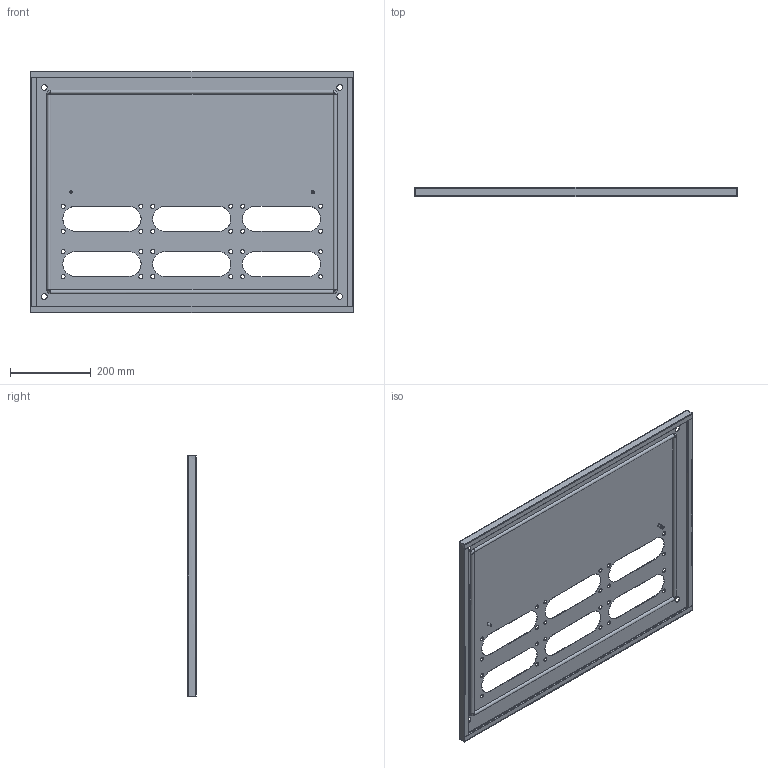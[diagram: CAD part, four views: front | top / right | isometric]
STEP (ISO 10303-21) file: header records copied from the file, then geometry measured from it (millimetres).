
FILE_DESCRIPTION (( 'STEP AP203' ), '1' );
FILE_NAME ('306426.STEP', '2021-06-17T12:38:48', ( '' ), ( '' ), 'SwSTEP 2.0', 'SolidWorks 2018', '' );
FILE_SCHEMA (( 'CONFIG_CONTROL_DESIGN' ));
Length unit declared in the file: millimetre
Products named in the file (6): 306426; PF 10x5 KTB FL21_0800x0600^306426(2)_306426; AC00C061_AC00C061^306426(2)_306426; I6o12-A5100231_straight^306426(2)_306426; RB.0371.00.01.0_-04^306426(2)_306426; 306426(2)^306426
Assembly tree (5 placements, depth 3):
  306426
    306426(2)^306426
      PF 10x5 KTB FL21_0800x0600^306426(2)_306426
      AC00C061_AC00C061^306426(2)_306426
      I6o12-A5100231_straight^306426(2)_306426
      RB.0371.00.01.0_-04^306426(2)_306426
Bounding box: 799 x 21.5 x 599 mm (x, y, z)
Volume: 835323.9 mm3; surface area: 1069360.1 mm2
Topology: 6 solids, 6 shells, 184 faces, 475 edges, 299 vertices
Faces by surface type: cylinder 104, plane 64, bspline 16
Entity records: 10461 total; most frequent: CARTESIAN_POINT 6247, ORIENTED_EDGE 942, B_SPLINE_CURVE_WITH_KNOTS 471, EDGE_CURVE 471, DIRECTION 354, VERTEX_POINT 299, EDGE_LOOP 254, FACE_OUTER_BOUND 184
